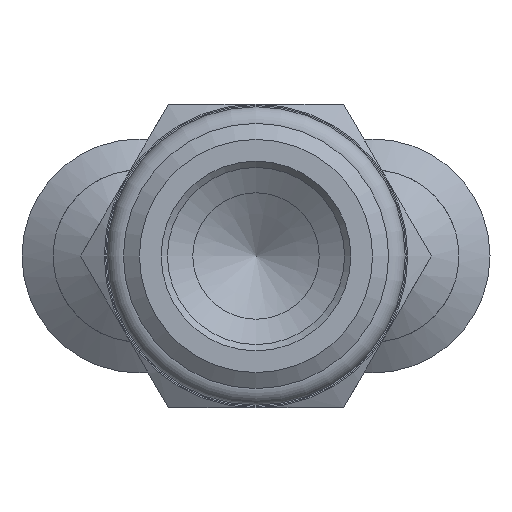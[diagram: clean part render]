
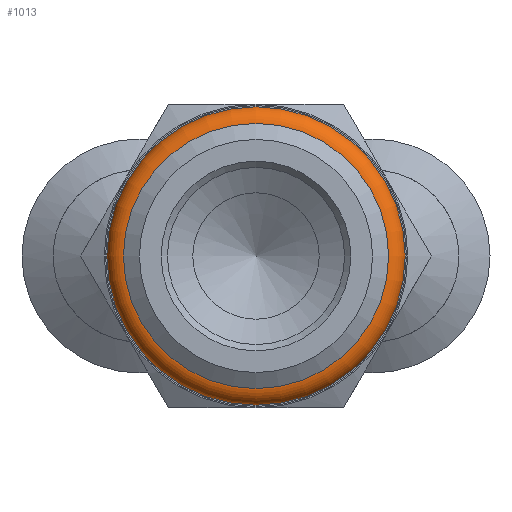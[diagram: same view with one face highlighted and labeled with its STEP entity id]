
A CAD part, front view. The second image highlights one B-rep face of the part: STEP entity #1013.
In plain terms, the highlighted toroidal (fillet/blend) face has major radius 10.32 mm and minor radius 1.5 mm.
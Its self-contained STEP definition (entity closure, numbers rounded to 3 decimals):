
#38=TOROIDAL_SURFACE('',#1136,10.32,1.5);
#141=FACE_BOUND('',#321,.T.);
#219=FACE_OUTER_BOUND('',#320,.T.);
#320=EDGE_LOOP('',(#794));
#321=EDGE_LOOP('',(#795));
#402=CIRCLE('',#1137,9.25);
#403=CIRCLE('',#1138,11.799);
#480=VERTEX_POINT('',#1841);
#481=VERTEX_POINT('',#1843);
#589=EDGE_CURVE('',#480,#480,#402,.T.);
#590=EDGE_CURVE('',#481,#481,#403,.T.);
#794=ORIENTED_EDGE('',*,*,#589,.F.);
#795=ORIENTED_EDGE('',*,*,#590,.F.);
#1013=ADVANCED_FACE('',(#219,#141),#38,.T.);
#1136=AXIS2_PLACEMENT_3D('',#1840,#1381,#1382);
#1137=AXIS2_PLACEMENT_3D('',#1842,#1383,#1384);
#1138=AXIS2_PLACEMENT_3D('',#1844,#1385,#1386);
#1381=DIRECTION('center_axis',(0.,1.,0.));
#1382=DIRECTION('ref_axis',(0.,0.,1.));
#1383=DIRECTION('center_axis',(0.,-1.,0.));
#1384=DIRECTION('ref_axis',(-1.,0.,0.));
#1385=DIRECTION('center_axis',(0.,1.,0.));
#1386=DIRECTION('ref_axis',(0.,0.,1.));
#1840=CARTESIAN_POINT('Origin',(0.,10.25,0.));
#1841=CARTESIAN_POINT('',(9.25,9.199,0.));
#1842=CARTESIAN_POINT('Origin',(0.,9.199,0.));
#1843=CARTESIAN_POINT('',(0.,10.,-11.799));
#1844=CARTESIAN_POINT('Origin',(0.,10.,0.));
